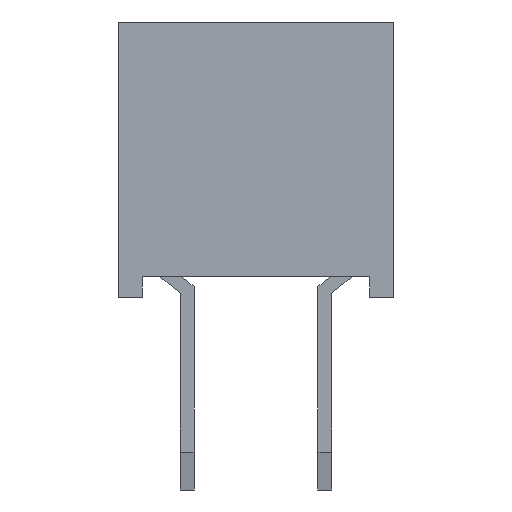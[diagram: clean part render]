
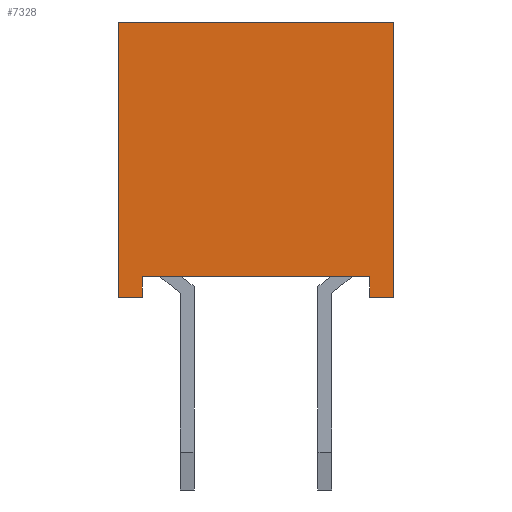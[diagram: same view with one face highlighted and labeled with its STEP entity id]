
A CAD part, left-side view. The second image highlights one B-rep face of the part: STEP entity #7328.
In plain terms, the highlighted planar face has unit normal (-1, 0, 0).
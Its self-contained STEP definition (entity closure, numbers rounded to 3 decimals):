
#108 = EDGE_CURVE ( 'NONE', #5549, #13613, #28080, .T. ) ;
#506 = EDGE_LOOP ( 'NONE', ( #22810, #12662, #18167, #10476, #20593, #1827, #24505, #3417 ) ) ;
#1062 = VECTOR ( 'NONE', #29381, 1000. ) ;
#1107 = CARTESIAN_POINT ( 'NONE',  ( -2.866, -2.219, 2.15 ) ) ;
#1587 = CARTESIAN_POINT ( 'NONE',  ( -2.866, -1.869, -2.15 ) ) ;
#1827 = ORIENTED_EDGE ( 'NONE', *, *, #5031, .T. ) ;
#2064 = CARTESIAN_POINT ( 'NONE',  ( -2.866, -1.869, -1.85 ) ) ;
#2241 = EDGE_CURVE ( 'NONE', #4316, #26349, #12499, .T. ) ;
#2688 = CARTESIAN_POINT ( 'NONE',  ( -2.866, 1.781, 2.15 ) ) ;
#2767 = VECTOR ( 'NONE', #15612, 1000. ) ;
#2908 = EDGE_CURVE ( 'NONE', #26349, #5549, #7385, .T. ) ;
#3417 = ORIENTED_EDGE ( 'NONE', *, *, #23137, .T. ) ;
#4287 = EDGE_CURVE ( 'NONE', #6904, #28526, #5995, .T. ) ;
#4316 = VERTEX_POINT ( 'NONE', #12533 ) ;
#4993 = DIRECTION ( 'NONE',  ( 0., -1., 0. ) ) ;
#5031 = EDGE_CURVE ( 'NONE', #16939, #6904, #26275, .T. ) ;
#5549 = VERTEX_POINT ( 'NONE', #10590 ) ;
#5679 = VECTOR ( 'NONE', #25607, 1000. ) ;
#5941 = EDGE_CURVE ( 'NONE', #4316, #22404, #21901, .T. ) ;
#5995 = LINE ( 'NONE', #1587, #1062 ) ;
#6357 = CARTESIAN_POINT ( 'NONE',  ( -2.866, 1.781, -2.15 ) ) ;
#6904 = VERTEX_POINT ( 'NONE', #2064 ) ;
#7328 = ADVANCED_FACE ( 'NONE', ( #24639 ), #10984, .F. ) ;
#7385 = LINE ( 'NONE', #2688, #5679 ) ;
#7484 = CARTESIAN_POINT ( 'NONE',  ( -2.866, 1.781, 1.85 ) ) ;
#8407 = CARTESIAN_POINT ( 'NONE',  ( -2.866, 1.781, 2.15 ) ) ;
#9845 = CARTESIAN_POINT ( 'NONE',  ( -2.866, 1.781, -2.15 ) ) ;
#10476 = ORIENTED_EDGE ( 'NONE', *, *, #108, .T. ) ;
#10590 = CARTESIAN_POINT ( 'NONE',  ( -2.866, 1.781, -2.15 ) ) ;
#10931 = EDGE_CURVE ( 'NONE', #13613, #16939, #16302, .T. ) ;
#10968 = VECTOR ( 'NONE', #27659, 1000. ) ;
#10984 = PLANE ( 'NONE',  #13842 ) ;
#12499 = LINE ( 'NONE', #19188, #10968 ) ;
#12533 = CARTESIAN_POINT ( 'NONE',  ( -2.866, -2.219, 1.85 ) ) ;
#12662 = ORIENTED_EDGE ( 'NONE', *, *, #2241, .T. ) ;
#13613 = VERTEX_POINT ( 'NONE', #26835 ) ;
#13842 = AXIS2_PLACEMENT_3D ( 'NONE', #8407, #20092, #22826 ) ;
#14165 = DIRECTION ( 'NONE',  ( 0., 0., 1. ) ) ;
#15612 = DIRECTION ( 'NONE',  ( 0., -1., 0. ) ) ;
#16302 = LINE ( 'NONE', #23422, #17972 ) ;
#16447 = CARTESIAN_POINT ( 'NONE',  ( -2.866, -2.219, -2.15 ) ) ;
#16939 = VERTEX_POINT ( 'NONE', #22999 ) ;
#17119 = VECTOR ( 'NONE', #21719, 1000. ) ;
#17972 = VECTOR ( 'NONE', #14165, 1000. ) ;
#18165 = VECTOR ( 'NONE', #4993, 1000. ) ;
#18167 = ORIENTED_EDGE ( 'NONE', *, *, #2908, .T. ) ;
#19188 = CARTESIAN_POINT ( 'NONE',  ( -2.866, 1.781, 1.85 ) ) ;
#19623 = DIRECTION ( 'NONE',  ( 0., 0., -1. ) ) ;
#20092 = DIRECTION ( 'NONE',  ( 1., 0., 0. ) ) ;
#20593 = ORIENTED_EDGE ( 'NONE', *, *, #10931, .T. ) ;
#21719 = DIRECTION ( 'NONE',  ( 0., -1., 0. ) ) ;
#21901 = LINE ( 'NONE', #1107, #22011 ) ;
#22011 = VECTOR ( 'NONE', #19623, 1000. ) ;
#22404 = VERTEX_POINT ( 'NONE', #16447 ) ;
#22810 = ORIENTED_EDGE ( 'NONE', *, *, #5941, .F. ) ;
#22826 = DIRECTION ( 'NONE',  ( 0., 1., 0. ) ) ;
#22999 = CARTESIAN_POINT ( 'NONE',  ( -2.866, 1.431, -1.85 ) ) ;
#23137 = EDGE_CURVE ( 'NONE', #28526, #22404, #27006, .T. ) ;
#23422 = CARTESIAN_POINT ( 'NONE',  ( -2.866, 1.431, -2.15 ) ) ;
#24435 = CARTESIAN_POINT ( 'NONE',  ( -2.866, -1.869, -1.85 ) ) ;
#24505 = ORIENTED_EDGE ( 'NONE', *, *, #4287, .T. ) ;
#24639 = FACE_OUTER_BOUND ( 'NONE', #506, .T. ) ;
#25607 = DIRECTION ( 'NONE',  ( 0., 0., -1. ) ) ;
#26275 = LINE ( 'NONE', #24435, #17119 ) ;
#26349 = VERTEX_POINT ( 'NONE', #7484 ) ;
#26835 = CARTESIAN_POINT ( 'NONE',  ( -2.866, 1.431, -2.15 ) ) ;
#27006 = LINE ( 'NONE', #6357, #2767 ) ;
#27262 = CARTESIAN_POINT ( 'NONE',  ( -2.866, -1.869, -2.15 ) ) ;
#27659 = DIRECTION ( 'NONE',  ( 0., 1., 0. ) ) ;
#28080 = LINE ( 'NONE', #9845, #18165 ) ;
#28526 = VERTEX_POINT ( 'NONE', #27262 ) ;
#29381 = DIRECTION ( 'NONE',  ( 0., 0., -1. ) ) ;
